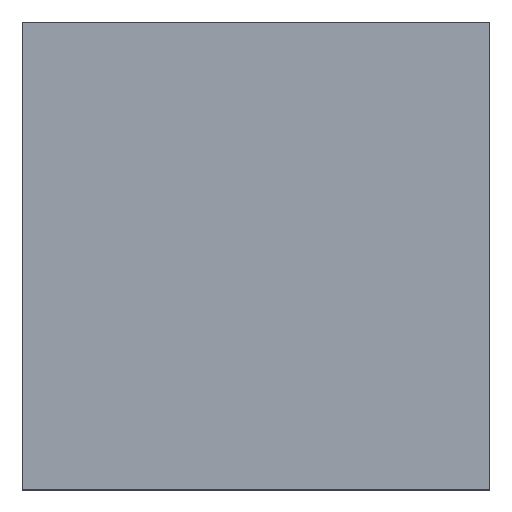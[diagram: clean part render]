
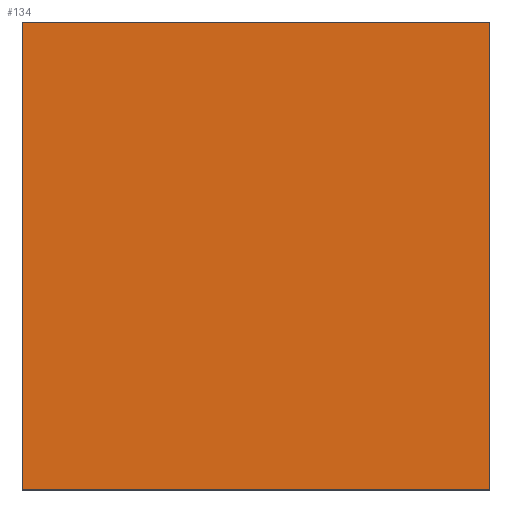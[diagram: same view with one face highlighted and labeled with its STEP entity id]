
A CAD part, top view. The second image highlights one B-rep face of the part: STEP entity #134.
In plain terms, the highlighted planar face has unit normal (0, 0, 1).
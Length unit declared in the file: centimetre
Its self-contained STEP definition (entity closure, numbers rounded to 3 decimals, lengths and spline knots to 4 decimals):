
#22 = VERTEX_POINT ( 'NONE', #330 ) ;
#122 = CARTESIAN_POINT ( 'NONE',  ( 0., 0., 1000. ) ) ;
#134 = ADVANCED_FACE ( 'NONE', ( #242 ), #319, .T. ) ;
#139 = CARTESIAN_POINT ( 'NONE',  ( 0., 0., 1000. ) ) ;
#151 = DIRECTION ( 'NONE',  ( 0., 1., 0. ) ) ;
#186 = EDGE_CURVE ( 'NONE', #423, #245, #694, .T. ) ;
#202 = LINE ( 'NONE', #467, #830 ) ;
#242 = FACE_OUTER_BOUND ( 'NONE', #766, .T. ) ;
#245 = VERTEX_POINT ( 'NONE', #139 ) ;
#261 = LINE ( 'NONE', #343, #366 ) ;
#293 = VERTEX_POINT ( 'NONE', #522 ) ;
#294 = ORIENTED_EDGE ( 'NONE', *, *, #318, .T. ) ;
#318 = EDGE_CURVE ( 'NONE', #22, #423, #328, .T. ) ;
#319 = PLANE ( 'NONE',  #762 ) ;
#328 = LINE ( 'NONE', #577, #701 ) ;
#330 = CARTESIAN_POINT ( 'NONE',  ( 1000., 1000., 1000. ) ) ;
#343 = CARTESIAN_POINT ( 'NONE',  ( 1000., 1000., 1000. ) ) ;
#366 = VECTOR ( 'NONE', #151, 100. ) ;
#423 = VERTEX_POINT ( 'NONE', #734 ) ;
#443 = DIRECTION ( 'NONE',  ( 0., 0., 1. ) ) ;
#467 = CARTESIAN_POINT ( 'NONE',  ( 0., 0., 1000. ) ) ;
#488 = ORIENTED_EDGE ( 'NONE', *, *, #783, .T. ) ;
#522 = CARTESIAN_POINT ( 'NONE',  ( 1000., 0., 1000. ) ) ;
#528 = VECTOR ( 'NONE', #684, 100. ) ;
#554 = CARTESIAN_POINT ( 'NONE',  ( 0., 1000., 1000. ) ) ;
#577 = CARTESIAN_POINT ( 'NONE',  ( 0., 1000., 1000. ) ) ;
#684 = DIRECTION ( 'NONE',  ( 0., -1., 0. ) ) ;
#689 = DIRECTION ( 'NONE',  ( 1., 0., 0. ) ) ;
#691 = ORIENTED_EDGE ( 'NONE', *, *, #186, .T. ) ;
#694 = LINE ( 'NONE', #554, #528 ) ;
#701 = VECTOR ( 'NONE', #715, 100. ) ;
#715 = DIRECTION ( 'NONE',  ( -1., 0., 0. ) ) ;
#727 = DIRECTION ( 'NONE',  ( 1., 0., 0. ) ) ;
#734 = CARTESIAN_POINT ( 'NONE',  ( 0., 1000., 1000. ) ) ;
#762 = AXIS2_PLACEMENT_3D ( 'NONE', #122, #443, #689 ) ;
#766 = EDGE_LOOP ( 'NONE', ( #691, #814, #488, #294 ) ) ;
#783 = EDGE_CURVE ( 'NONE', #293, #22, #261, .T. ) ;
#814 = ORIENTED_EDGE ( 'NONE', *, *, #827, .T. ) ;
#827 = EDGE_CURVE ( 'NONE', #245, #293, #202, .T. ) ;
#830 = VECTOR ( 'NONE', #727, 100. ) ;
